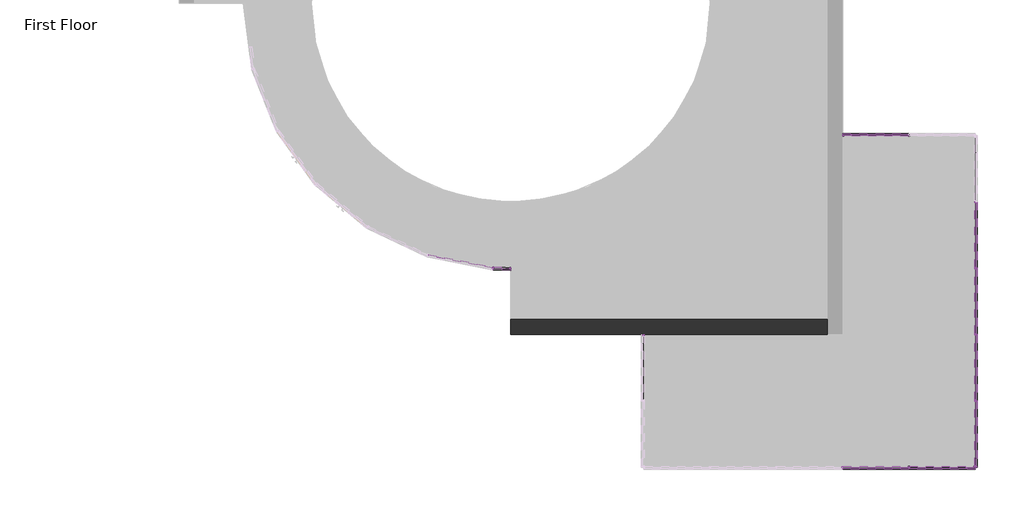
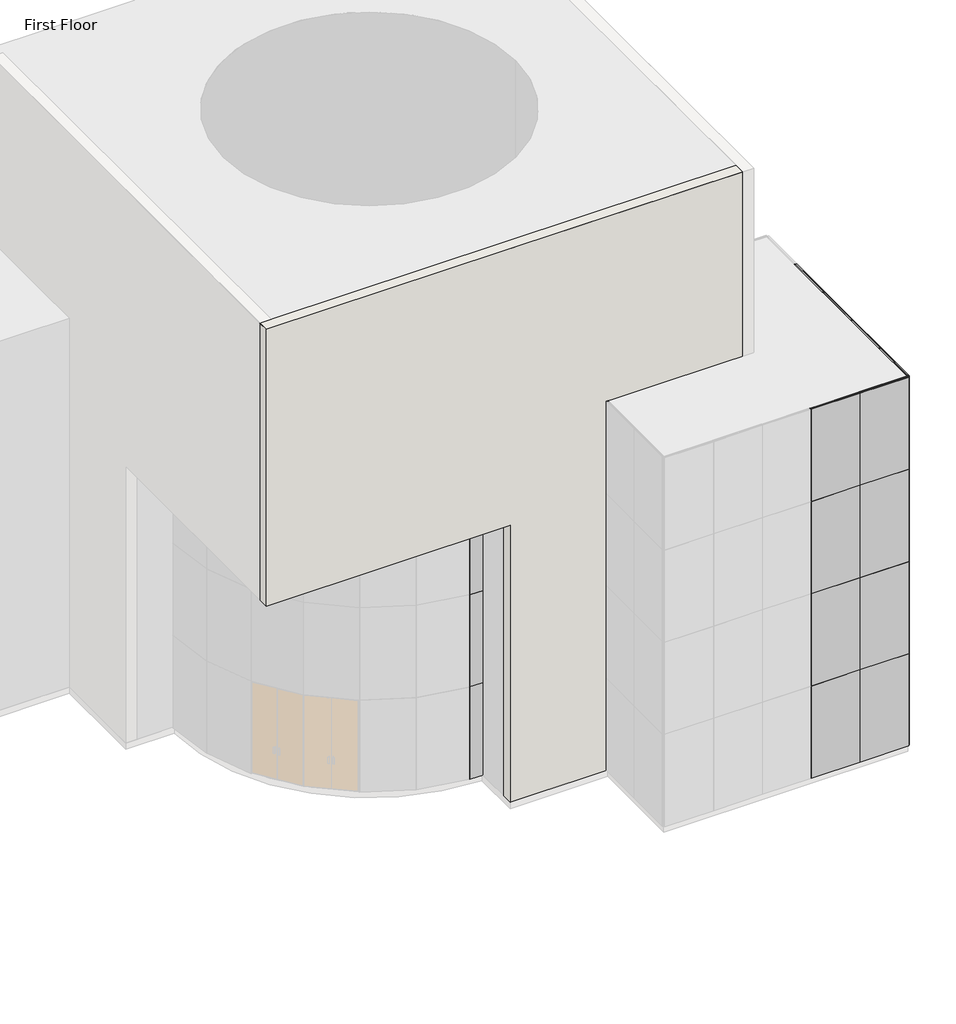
# One storey, part 2 of 4: 91 members, 31 plates, 1 wall.
"""IFC4 building model written with IfcOpenShell, lengths in millimetres."""

from ifc_helpers import new_model, si_unit, origin, place, context, project, spatial, faceted_brep, transform, mapped, element, save
from components import rectangular_mullion_30mm_square_353f8307, rectangular_mullion_30mm_square_7a78963c, rectangular_mullion_30mm_square_eb988697, rectangular_mullion_30mm_square_0160e4a9, rectangular_mullion_30mm_square_0f531e6e, rectangular_mullion_30mm_square_5a53314d, rectangular_mullion_30mm_square_6b9c2625, rectangular_mullion_30mm_square_fb254f26, rectangular_mullion_30mm_square_e6ba2f94, rectangular_mullion_30mm_square_80292d53, system_panel_glazed_8bf869fa, system_panel_glazed_f5855ad7

model = new_model("IFC4")

# Units and contexts
model_context = context("Model", 3, world=origin())
ifc_project = project(units=[si_unit("LENGTHUNIT", "METRE", prefix="MILLI")], contexts=[model_context])

# Site, building, storey
site = spatial("IfcSite", under=ifc_project)
building = spatial("IfcBuilding", under=site)
storey = spatial("IfcBuildingStorey", under=building, Name="First Floor", Elevation=0.0)

# Members
placement = place(None, origin())
rectangular_mullion_30mm_square_shape = rectangular_mullion_30mm_square_353f8307(model_context)
element("IfcMember", 1, ObjectType="Rectangular Mullion : 30mm Square", at=placement, inside=storey, context=model_context, shape_type="MappedRepresentation", body=[
    mapped(rectangular_mullion_30mm_square_shape, transform((11481.0350085, -10495.147342, 12192.0), x_axis=(0.0, 0.0, 1.0), y_axis=(0.0, -1.0, 0.0), z_axis=(1.0, 0.0, 0.0))),
])
element("IfcMember", 2, ObjectType="Rectangular Mullion : 30mm Square", at=placement, inside=storey, context=model_context, shape_type="MappedRepresentation", body=[
    mapped(rectangular_mullion_30mm_square_shape, transform((11511.0350085, -8986.147342, 12192.0), x_axis=(0.0, 0.0, 1.0), y_axis=(1.0, 0.0, 0.0), z_axis=(0.0, 1.0, 0.0))),
])
element("IfcMember", 3, ObjectType="Rectangular Mullion : 30mm Square", at=placement, inside=storey, context=model_context, shape_type="MappedRepresentation", body=[
    mapped(rectangular_mullion_30mm_square_shape, transform((8493.0350085, -2875.147342, 12192.0), x_axis=(0.0, 0.0, 1.0), y_axis=(0.0, 1.0, 0.0), z_axis=(-1.0, 0.0, 0.0))),
])
element("IfcMember", 4, ObjectType="Rectangular Mullion : 30mm Square", at=placement, inside=storey, context=model_context, shape_type="MappedRepresentation", body=[
    mapped(rectangular_mullion_30mm_square_shape, transform((3891.0350085, -7477.147342, 0.0), x_axis=(0.0, 0.0, -1.0), y_axis=(-1.0, 0.0, 0.0), z_axis=(0.0, 1.0, 0.0))),
])
element("IfcMember", 5, ObjectType="Rectangular Mullion : 30mm Square", at=placement, inside=storey, context=model_context, shape_type="MappedRepresentation", body=[
    mapped(rectangular_mullion_30mm_square_shape, transform((10002.0350085, -10495.147342, 0.0), x_axis=(0.0, 0.0, -1.0), y_axis=(0.0, -1.0, 0.0), z_axis=(-1.0, 0.0, 0.0))),
])
element("IfcMember", 6, ObjectType="Rectangular Mullion : 30mm Square", at=placement, inside=storey, context=model_context, shape_type="MappedRepresentation", body=[
    mapped(rectangular_mullion_30mm_square_shape, transform((11511.0350085, -10465.147342, 0.0), x_axis=(0.0, 0.0, -1.0), y_axis=(1.0, 0.0, 0.0), z_axis=(0.0, -1.0, 0.0))),
])
element("IfcMember", 7, ObjectType="Rectangular Mullion : 30mm Square", at=placement, inside=storey, context=model_context, shape_type="MappedRepresentation", body=[
    mapped(rectangular_mullion_30mm_square_shape, transform((11511.0350085, -4384.147342, 0.0), x_axis=(0.0, 0.0, -1.0), y_axis=(1.0, 0.0, 0.0), z_axis=(0.0, -1.0, 0.0))),
])
element("IfcMember", 8, ObjectType="Rectangular Mullion : 30mm Square", at=placement, inside=storey, context=model_context, shape_type="MappedRepresentation", body=[
    mapped(rectangular_mullion_30mm_square_shape, transform((9972.0350085, -2875.147342, 0.0), x_axis=(0.0, 0.0, -1.0), y_axis=(0.0, 1.0, 0.0), z_axis=(1.0, 0.0, 0.0))),
])
rectangular_mullion_30mm_square_2_shape = rectangular_mullion_30mm_square_7a78963c(model_context)
element("IfcMember", 9, ObjectType="Rectangular Mullion : 30mm Square", at=placement, inside=storey, context=model_context, shape_type="MappedRepresentation", body=[
    mapped(rectangular_mullion_30mm_square_2_shape, transform((435.7457338, -5909.5261075, 0.0), x_axis=(0.9977655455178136, -0.06681254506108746, 0.0), y_axis=(-0.06681254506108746, -0.9977655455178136, 0.0), z_axis=(0.0, 0.0, -1.0))),
])
element("IfcMember", 10, ObjectType="Rectangular Mullion : 30mm Square", at=placement, inside=storey, context=model_context, shape_type="MappedRepresentation", body=[
    mapped(rectangular_mullion_30mm_square_2_shape, transform((9987.0350085, -10495.147342, 0.0), x_axis=(1.0, 0.0, 0.0), y_axis=(0.0, -1.0, 0.0), z_axis=(0.0, 0.0, -1.0))),
])
element("IfcMember", 11, ObjectType="Rectangular Mullion : 30mm Square", at=placement, inside=storey, context=model_context, shape_type="MappedRepresentation", body=[
    mapped(rectangular_mullion_30mm_square_2_shape, transform((11511.0350085, -8971.147342, 0.0), x_axis=(0.0, 1.0, 0.0), y_axis=(1.0, 0.0, 0.0), z_axis=(0.0, 0.0, -1.0))),
])
element("IfcMember", 12, ObjectType="Rectangular Mullion : 30mm Square", at=placement, inside=storey, context=model_context, shape_type="MappedRepresentation", body=[
    mapped(rectangular_mullion_30mm_square_2_shape, transform((11511.0350085, -7447.147342, 0.0), x_axis=(0.0, 1.0, 0.0), y_axis=(1.0, 0.0, 0.0), z_axis=(0.0, 0.0, -1.0))),
])
element("IfcMember", 13, ObjectType="Rectangular Mullion : 30mm Square", at=placement, inside=storey, context=model_context, shape_type="MappedRepresentation", body=[
    mapped(rectangular_mullion_30mm_square_2_shape, transform((11511.0350085, -5923.147342, 0.0), x_axis=(0.0, 1.0, 0.0), y_axis=(1.0, 0.0, 0.0), z_axis=(0.0, 0.0, -1.0))),
])
element("IfcMember", 14, ObjectType="Rectangular Mullion : 30mm Square", at=placement, inside=storey, context=model_context, shape_type="MappedRepresentation", body=[
    mapped(rectangular_mullion_30mm_square_2_shape, transform((11511.0350085, -4399.147342, 0.0), x_axis=(0.0, 1.0, 0.0), y_axis=(1.0, 0.0, 0.0), z_axis=(0.0, 0.0, -1.0))),
])
element("IfcMember", 15, ObjectType="Rectangular Mullion : 30mm Square", at=placement, inside=storey, context=model_context, shape_type="MappedRepresentation", body=[
    mapped(rectangular_mullion_30mm_square_2_shape, transform((9987.0350085, -2875.147342, 0.0), x_axis=(-1.0, 0.0, 0.0), y_axis=(0.0, 1.0, 0.0), z_axis=(0.0, 0.0, -1.0))),
])
rectangular_mullion_30mm_square_3_shape = rectangular_mullion_30mm_square_eb988697(model_context)
element("IfcMember", 16, ObjectType="Rectangular Mullion : 30mm Square", at=placement, inside=storey, context=model_context, shape_type="MappedRepresentation", body=[
    mapped(rectangular_mullion_30mm_square_3_shape, transform((11481.0350085, -10495.147342, 3048.0), x_axis=(0.0, 0.0, 1.0), y_axis=(0.0, -1.0, 0.0), z_axis=(1.0, 0.0, 0.0))),
])
element("IfcMember", 17, ObjectType="Rectangular Mullion : 30mm Square", at=placement, inside=storey, context=model_context, shape_type="MappedRepresentation", body=[
    mapped(rectangular_mullion_30mm_square_3_shape, transform((11481.0350085, -10495.147342, 6096.0), x_axis=(0.0, 0.0, 1.0), y_axis=(0.0, -1.0, 0.0), z_axis=(1.0, 0.0, 0.0))),
])
element("IfcMember", 18, ObjectType="Rectangular Mullion : 30mm Square", at=placement, inside=storey, context=model_context, shape_type="MappedRepresentation", body=[
    mapped(rectangular_mullion_30mm_square_3_shape, transform((11481.0350085, -10495.147342, 9144.0), x_axis=(0.0, 0.0, 1.0), y_axis=(0.0, -1.0, 0.0), z_axis=(1.0, 0.0, 0.0))),
])
element("IfcMember", 19, ObjectType="Rectangular Mullion : 30mm Square", at=placement, inside=storey, context=model_context, shape_type="MappedRepresentation", body=[
    mapped(rectangular_mullion_30mm_square_3_shape, transform((11511.0350085, -8986.147342, 3048.0), x_axis=(0.0, 0.0, 1.0), y_axis=(1.0, 0.0, 0.0), z_axis=(0.0, 1.0, 0.0))),
])
element("IfcMember", 20, ObjectType="Rectangular Mullion : 30mm Square", at=placement, inside=storey, context=model_context, shape_type="MappedRepresentation", body=[
    mapped(rectangular_mullion_30mm_square_3_shape, transform((11511.0350085, -8986.147342, 6096.0), x_axis=(0.0, 0.0, 1.0), y_axis=(1.0, 0.0, 0.0), z_axis=(0.0, 1.0, 0.0))),
])
element("IfcMember", 21, ObjectType="Rectangular Mullion : 30mm Square", at=placement, inside=storey, context=model_context, shape_type="MappedRepresentation", body=[
    mapped(rectangular_mullion_30mm_square_3_shape, transform((11511.0350085, -8986.147342, 9144.0), x_axis=(0.0, 0.0, 1.0), y_axis=(1.0, 0.0, 0.0), z_axis=(0.0, 1.0, 0.0))),
])
element("IfcMember", 22, ObjectType="Rectangular Mullion : 30mm Square", at=placement, inside=storey, context=model_context, shape_type="MappedRepresentation", body=[
    mapped(rectangular_mullion_30mm_square_3_shape, transform((8493.0350085, -2875.147342, 3048.0), x_axis=(0.0, 0.0, 1.0), y_axis=(0.0, 1.0, 0.0), z_axis=(-1.0, 0.0, 0.0))),
])
element("IfcMember", 23, ObjectType="Rectangular Mullion : 30mm Square", at=placement, inside=storey, context=model_context, shape_type="MappedRepresentation", body=[
    mapped(rectangular_mullion_30mm_square_3_shape, transform((8493.0350085, -2875.147342, 6096.0), x_axis=(0.0, 0.0, 1.0), y_axis=(0.0, 1.0, 0.0), z_axis=(-1.0, 0.0, 0.0))),
])
element("IfcMember", 24, ObjectType="Rectangular Mullion : 30mm Square", at=placement, inside=storey, context=model_context, shape_type="MappedRepresentation", body=[
    mapped(rectangular_mullion_30mm_square_3_shape, transform((8493.0350085, -2875.147342, 9144.0), x_axis=(0.0, 0.0, 1.0), y_axis=(0.0, 1.0, 0.0), z_axis=(-1.0, 0.0, 0.0))),
])
rectangular_mullion_30mm_square_4_shape = rectangular_mullion_30mm_square_0160e4a9(model_context)
element("IfcMember", 25, ObjectType="Rectangular Mullion : 30mm Square", at=placement, inside=storey, context=model_context, shape_type="MappedRepresentation", body=[
    mapped(rectangular_mullion_30mm_square_4_shape, transform((9972.0350085, -10495.147342, 3048.0), x_axis=(0.0, 0.0, 1.0), y_axis=(0.0, -1.0, 0.0), z_axis=(1.0, 0.0, 0.0))),
])
element("IfcMember", 26, ObjectType="Rectangular Mullion : 30mm Square", at=placement, inside=storey, context=model_context, shape_type="MappedRepresentation", body=[
    mapped(rectangular_mullion_30mm_square_4_shape, transform((9972.0350085, -10495.147342, 6096.0), x_axis=(0.0, 0.0, 1.0), y_axis=(0.0, -1.0, 0.0), z_axis=(1.0, 0.0, 0.0))),
])
element("IfcMember", 27, ObjectType="Rectangular Mullion : 30mm Square", at=placement, inside=storey, context=model_context, shape_type="MappedRepresentation", body=[
    mapped(rectangular_mullion_30mm_square_4_shape, transform((9972.0350085, -10495.147342, 9144.0), x_axis=(0.0, 0.0, 1.0), y_axis=(0.0, -1.0, 0.0), z_axis=(1.0, 0.0, 0.0))),
])
element("IfcMember", 28, ObjectType="Rectangular Mullion : 30mm Square", at=placement, inside=storey, context=model_context, shape_type="MappedRepresentation", body=[
    mapped(rectangular_mullion_30mm_square_4_shape, transform((11511.0350085, -7462.147342, 3048.0), x_axis=(0.0, 0.0, 1.0), y_axis=(1.0, 0.0, 0.0), z_axis=(0.0, 1.0, 0.0))),
])
element("IfcMember", 29, ObjectType="Rectangular Mullion : 30mm Square", at=placement, inside=storey, context=model_context, shape_type="MappedRepresentation", body=[
    mapped(rectangular_mullion_30mm_square_4_shape, transform((11511.0350085, -5938.147342, 3048.0), x_axis=(0.0, 0.0, 1.0), y_axis=(1.0, 0.0, 0.0), z_axis=(0.0, 1.0, 0.0))),
])
element("IfcMember", 30, ObjectType="Rectangular Mullion : 30mm Square", at=placement, inside=storey, context=model_context, shape_type="MappedRepresentation", body=[
    mapped(rectangular_mullion_30mm_square_4_shape, transform((11511.0350085, -4414.147342, 3048.0), x_axis=(0.0, 0.0, 1.0), y_axis=(1.0, 0.0, 0.0), z_axis=(0.0, 1.0, 0.0))),
])
element("IfcMember", 31, ObjectType="Rectangular Mullion : 30mm Square", at=placement, inside=storey, context=model_context, shape_type="MappedRepresentation", body=[
    mapped(rectangular_mullion_30mm_square_4_shape, transform((11511.0350085, -7462.147342, 6096.0), x_axis=(0.0, 0.0, 1.0), y_axis=(1.0, 0.0, 0.0), z_axis=(0.0, 1.0, 0.0))),
])
element("IfcMember", 32, ObjectType="Rectangular Mullion : 30mm Square", at=placement, inside=storey, context=model_context, shape_type="MappedRepresentation", body=[
    mapped(rectangular_mullion_30mm_square_4_shape, transform((11511.0350085, -5938.147342, 6096.0), x_axis=(0.0, 0.0, 1.0), y_axis=(1.0, 0.0, 0.0), z_axis=(0.0, 1.0, 0.0))),
])
element("IfcMember", 33, ObjectType="Rectangular Mullion : 30mm Square", at=placement, inside=storey, context=model_context, shape_type="MappedRepresentation", body=[
    mapped(rectangular_mullion_30mm_square_4_shape, transform((11511.0350085, -4414.147342, 6096.0), x_axis=(0.0, 0.0, 1.0), y_axis=(1.0, 0.0, 0.0), z_axis=(0.0, 1.0, 0.0))),
])
element("IfcMember", 34, ObjectType="Rectangular Mullion : 30mm Square", at=placement, inside=storey, context=model_context, shape_type="MappedRepresentation", body=[
    mapped(rectangular_mullion_30mm_square_4_shape, transform((11511.0350085, -7462.147342, 9144.0), x_axis=(0.0, 0.0, 1.0), y_axis=(1.0, 0.0, 0.0), z_axis=(0.0, 1.0, 0.0))),
])
element("IfcMember", 35, ObjectType="Rectangular Mullion : 30mm Square", at=placement, inside=storey, context=model_context, shape_type="MappedRepresentation", body=[
    mapped(rectangular_mullion_30mm_square_4_shape, transform((11511.0350085, -5938.147342, 9144.0), x_axis=(0.0, 0.0, 1.0), y_axis=(1.0, 0.0, 0.0), z_axis=(0.0, 1.0, 0.0))),
])
element("IfcMember", 36, ObjectType="Rectangular Mullion : 30mm Square", at=placement, inside=storey, context=model_context, shape_type="MappedRepresentation", body=[
    mapped(rectangular_mullion_30mm_square_4_shape, transform((11511.0350085, -4414.147342, 9144.0), x_axis=(0.0, 0.0, 1.0), y_axis=(1.0, 0.0, 0.0), z_axis=(0.0, 1.0, 0.0))),
])
rectangular_mullion_30mm_square_5_shape = rectangular_mullion_30mm_square_0f531e6e(model_context)
element("IfcMember", 37, ObjectType="Rectangular Mullion : 30mm Square", at=placement, inside=storey, context=model_context, shape_type="MappedRepresentation", body=[
    mapped(rectangular_mullion_30mm_square_5_shape, transform((11511.0350085, -8956.147342, 0.0), x_axis=(0.0, 0.0, -1.0), y_axis=(1.0, 0.0, 0.0), z_axis=(0.0, -1.0, 0.0))),
])
element("IfcMember", 38, ObjectType="Rectangular Mullion : 30mm Square", at=placement, inside=storey, context=model_context, shape_type="MappedRepresentation", body=[
    mapped(rectangular_mullion_30mm_square_5_shape, transform((11511.0350085, -7432.147342, 0.0), x_axis=(0.0, 0.0, -1.0), y_axis=(1.0, 0.0, 0.0), z_axis=(0.0, -1.0, 0.0))),
])
element("IfcMember", 39, ObjectType="Rectangular Mullion : 30mm Square", at=placement, inside=storey, context=model_context, shape_type="MappedRepresentation", body=[
    mapped(rectangular_mullion_30mm_square_5_shape, transform((11511.0350085, -5908.147342, 0.0), x_axis=(0.0, 0.0, -1.0), y_axis=(1.0, 0.0, 0.0), z_axis=(0.0, -1.0, 0.0))),
])
element("IfcMember", 40, ObjectType="Rectangular Mullion : 30mm Square", at=placement, inside=storey, context=model_context, shape_type="MappedRepresentation", body=[
    mapped(rectangular_mullion_30mm_square_5_shape, transform((9972.0350085, -10495.147342, 12192.0), x_axis=(0.0, 0.0, 1.0), y_axis=(0.0, -1.0, 0.0), z_axis=(1.0, 0.0, 0.0))),
])
element("IfcMember", 41, ObjectType="Rectangular Mullion : 30mm Square", at=placement, inside=storey, context=model_context, shape_type="MappedRepresentation", body=[
    mapped(rectangular_mullion_30mm_square_5_shape, transform((11511.0350085, -7462.147342, 12192.0), x_axis=(0.0, 0.0, 1.0), y_axis=(1.0, 0.0, 0.0), z_axis=(0.0, 1.0, 0.0))),
])
element("IfcMember", 42, ObjectType="Rectangular Mullion : 30mm Square", at=placement, inside=storey, context=model_context, shape_type="MappedRepresentation", body=[
    mapped(rectangular_mullion_30mm_square_5_shape, transform((11511.0350085, -5938.147342, 12192.0), x_axis=(0.0, 0.0, 1.0), y_axis=(1.0, 0.0, 0.0), z_axis=(0.0, 1.0, 0.0))),
])
element("IfcMember", 43, ObjectType="Rectangular Mullion : 30mm Square", at=placement, inside=storey, context=model_context, shape_type="MappedRepresentation", body=[
    mapped(rectangular_mullion_30mm_square_5_shape, transform((11511.0350085, -4414.147342, 12192.0), x_axis=(0.0, 0.0, 1.0), y_axis=(1.0, 0.0, 0.0), z_axis=(0.0, 1.0, 0.0))),
])
element("IfcMember", 44, ObjectType="Rectangular Mullion : 30mm Square", at=placement, inside=storey, context=model_context, shape_type="MappedRepresentation", body=[
    mapped(rectangular_mullion_30mm_square_2_shape, transform((435.7457338, -5909.5261075, 3048.0), x_axis=(0.9977655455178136, -0.06681254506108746, 0.0), y_axis=(-0.06681254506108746, -0.9977655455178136, 0.0), z_axis=(0.0, 0.0, -1.0))),
])
element("IfcMember", 45, ObjectType="Rectangular Mullion : 30mm Square", at=placement, inside=storey, context=model_context, shape_type="MappedRepresentation", body=[
    mapped(rectangular_mullion_30mm_square_2_shape, transform((8463.0350085, -10495.147342, 6096.0), x_axis=(1.0, 0.0, 0.0), y_axis=(0.0, -1.0, 0.0), z_axis=(0.0, 0.0, -1.0))),
])
element("IfcMember", 46, ObjectType="Rectangular Mullion : 30mm Square", at=placement, inside=storey, context=model_context, shape_type="MappedRepresentation", body=[
    mapped(rectangular_mullion_30mm_square_2_shape, transform((9987.0350085, -10495.147342, 3048.0), x_axis=(1.0, 0.0, 0.0), y_axis=(0.0, -1.0, 0.0), z_axis=(0.0, 0.0, -1.0))),
])
element("IfcMember", 47, ObjectType="Rectangular Mullion : 30mm Square", at=placement, inside=storey, context=model_context, shape_type="MappedRepresentation", body=[
    mapped(rectangular_mullion_30mm_square_2_shape, transform((9987.0350085, -10495.147342, 6096.0), x_axis=(1.0, 0.0, 0.0), y_axis=(0.0, -1.0, 0.0), z_axis=(0.0, 0.0, -1.0))),
])
element("IfcMember", 48, ObjectType="Rectangular Mullion : 30mm Square", at=placement, inside=storey, context=model_context, shape_type="MappedRepresentation", body=[
    mapped(rectangular_mullion_30mm_square_2_shape, transform((11511.0350085, -8971.147342, 3048.0), x_axis=(0.0, 1.0, 0.0), y_axis=(1.0, 0.0, 0.0), z_axis=(0.0, 0.0, -1.0))),
])
element("IfcMember", 49, ObjectType="Rectangular Mullion : 30mm Square", at=placement, inside=storey, context=model_context, shape_type="MappedRepresentation", body=[
    mapped(rectangular_mullion_30mm_square_2_shape, transform((11511.0350085, -8971.147342, 6096.0), x_axis=(0.0, 1.0, 0.0), y_axis=(1.0, 0.0, 0.0), z_axis=(0.0, 0.0, -1.0))),
])
element("IfcMember", 50, ObjectType="Rectangular Mullion : 30mm Square", at=placement, inside=storey, context=model_context, shape_type="MappedRepresentation", body=[
    mapped(rectangular_mullion_30mm_square_2_shape, transform((11511.0350085, -7447.147342, 3048.0), x_axis=(0.0, 1.0, 0.0), y_axis=(1.0, 0.0, 0.0), z_axis=(0.0, 0.0, -1.0))),
])
element("IfcMember", 51, ObjectType="Rectangular Mullion : 30mm Square", at=placement, inside=storey, context=model_context, shape_type="MappedRepresentation", body=[
    mapped(rectangular_mullion_30mm_square_2_shape, transform((11511.0350085, -7447.147342, 6096.0), x_axis=(0.0, 1.0, 0.0), y_axis=(1.0, 0.0, 0.0), z_axis=(0.0, 0.0, -1.0))),
])
element("IfcMember", 52, ObjectType="Rectangular Mullion : 30mm Square", at=placement, inside=storey, context=model_context, shape_type="MappedRepresentation", body=[
    mapped(rectangular_mullion_30mm_square_2_shape, transform((11511.0350085, -5923.147342, 3048.0), x_axis=(0.0, 1.0, 0.0), y_axis=(1.0, 0.0, 0.0), z_axis=(0.0, 0.0, -1.0))),
])
element("IfcMember", 53, ObjectType="Rectangular Mullion : 30mm Square", at=placement, inside=storey, context=model_context, shape_type="MappedRepresentation", body=[
    mapped(rectangular_mullion_30mm_square_2_shape, transform((11511.0350085, -5923.147342, 6096.0), x_axis=(0.0, 1.0, 0.0), y_axis=(1.0, 0.0, 0.0), z_axis=(0.0, 0.0, -1.0))),
])
element("IfcMember", 54, ObjectType="Rectangular Mullion : 30mm Square", at=placement, inside=storey, context=model_context, shape_type="MappedRepresentation", body=[
    mapped(rectangular_mullion_30mm_square_2_shape, transform((11511.0350085, -4399.147342, 3048.0), x_axis=(0.0, 1.0, 0.0), y_axis=(1.0, 0.0, 0.0), z_axis=(0.0, 0.0, -1.0))),
])
element("IfcMember", 55, ObjectType="Rectangular Mullion : 30mm Square", at=placement, inside=storey, context=model_context, shape_type="MappedRepresentation", body=[
    mapped(rectangular_mullion_30mm_square_2_shape, transform((11511.0350085, -4399.147342, 6096.0), x_axis=(0.0, 1.0, 0.0), y_axis=(1.0, 0.0, 0.0), z_axis=(0.0, 0.0, -1.0))),
])
element("IfcMember", 56, ObjectType="Rectangular Mullion : 30mm Square", at=placement, inside=storey, context=model_context, shape_type="MappedRepresentation", body=[
    mapped(rectangular_mullion_30mm_square_2_shape, transform((9987.0350085, -2875.147342, 3048.0), x_axis=(-1.0, 0.0, 0.0), y_axis=(0.0, 1.0, 0.0), z_axis=(0.0, 0.0, -1.0))),
])
element("IfcMember", 57, ObjectType="Rectangular Mullion : 30mm Square", at=placement, inside=storey, context=model_context, shape_type="MappedRepresentation", body=[
    mapped(rectangular_mullion_30mm_square_2_shape, transform((9987.0350085, -2875.147342, 6096.0), x_axis=(-1.0, 0.0, 0.0), y_axis=(0.0, 1.0, 0.0), z_axis=(0.0, 0.0, -1.0))),
])
element("IfcMember", 58, ObjectType="Rectangular Mullion : 30mm Square", at=placement, inside=storey, context=model_context, shape_type="MappedRepresentation", body=[
    mapped(rectangular_mullion_30mm_square_2_shape, transform((435.7457338, -5909.5261075, 6096.0), x_axis=(0.9977655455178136, -0.06681254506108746, 0.0), y_axis=(-0.06681254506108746, -0.9977655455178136, 0.0), z_axis=(0.0, 0.0, -1.0))),
])
element("IfcMember", 59, ObjectType="Rectangular Mullion : 30mm Square", at=placement, inside=storey, context=model_context, shape_type="MappedRepresentation", body=[
    mapped(rectangular_mullion_30mm_square_2_shape, transform((8463.0350085, -10495.147342, 9144.0), x_axis=(1.0, 0.0, 0.0), y_axis=(0.0, -1.0, 0.0), z_axis=(0.0, 0.0, -1.0))),
])
element("IfcMember", 60, ObjectType="Rectangular Mullion : 30mm Square", at=placement, inside=storey, context=model_context, shape_type="MappedRepresentation", body=[
    mapped(rectangular_mullion_30mm_square_2_shape, transform((9987.0350085, -10495.147342, 9144.0), x_axis=(1.0, 0.0, 0.0), y_axis=(0.0, -1.0, 0.0), z_axis=(0.0, 0.0, -1.0))),
])
element("IfcMember", 61, ObjectType="Rectangular Mullion : 30mm Square", at=placement, inside=storey, context=model_context, shape_type="MappedRepresentation", body=[
    mapped(rectangular_mullion_30mm_square_2_shape, transform((11511.0350085, -8971.147342, 9144.0), x_axis=(0.0, 1.0, 0.0), y_axis=(1.0, 0.0, 0.0), z_axis=(0.0, 0.0, -1.0))),
])
element("IfcMember", 62, ObjectType="Rectangular Mullion : 30mm Square", at=placement, inside=storey, context=model_context, shape_type="MappedRepresentation", body=[
    mapped(rectangular_mullion_30mm_square_2_shape, transform((11511.0350085, -7447.147342, 9144.0), x_axis=(0.0, 1.0, 0.0), y_axis=(1.0, 0.0, 0.0), z_axis=(0.0, 0.0, -1.0))),
])
element("IfcMember", 63, ObjectType="Rectangular Mullion : 30mm Square", at=placement, inside=storey, context=model_context, shape_type="MappedRepresentation", body=[
    mapped(rectangular_mullion_30mm_square_2_shape, transform((11511.0350085, -5923.147342, 9144.0), x_axis=(0.0, 1.0, 0.0), y_axis=(1.0, 0.0, 0.0), z_axis=(0.0, 0.0, -1.0))),
])
element("IfcMember", 64, ObjectType="Rectangular Mullion : 30mm Square", at=placement, inside=storey, context=model_context, shape_type="MappedRepresentation", body=[
    mapped(rectangular_mullion_30mm_square_2_shape, transform((11511.0350085, -4399.147342, 9144.0), x_axis=(0.0, 1.0, 0.0), y_axis=(1.0, 0.0, 0.0), z_axis=(0.0, 0.0, -1.0))),
])
element("IfcMember", 65, ObjectType="Rectangular Mullion : 30mm Square", at=placement, inside=storey, context=model_context, shape_type="MappedRepresentation", body=[
    mapped(rectangular_mullion_30mm_square_2_shape, transform((9987.0350085, -2875.147342, 9144.0), x_axis=(-1.0, 0.0, 0.0), y_axis=(0.0, 1.0, 0.0), z_axis=(0.0, 0.0, -1.0))),
])
rectangular_mullion_30mm_square_6_shape = rectangular_mullion_30mm_square_5a53314d(model_context)
element("IfcMember", 66, ObjectType="Rectangular Mullion : 30mm Square", at=placement, inside=storey, context=model_context, shape_type="MappedRepresentation", body=[
    mapped(rectangular_mullion_30mm_square_6_shape, transform((3891.0350085, -7447.147342, 12192.0), x_axis=(0.0, 1.0, 0.0), y_axis=(-1.0, 0.0, 0.0), z_axis=(0.0, 0.0, 1.0))),
])
element("IfcMember", 67, ObjectType="Rectangular Mullion : 30mm Square", at=placement, inside=storey, context=model_context, shape_type="MappedRepresentation", body=[
    mapped(rectangular_mullion_30mm_square_6_shape, transform((11511.0350085, -10495.147342, 12192.0), x_axis=(0.0, -1.0, 0.0), y_axis=(1.0, 0.0, 0.0), z_axis=(0.0, 0.0, 1.0))),
])
element("IfcMember", 68, ObjectType="Rectangular Mullion : 30mm Square", at=placement, inside=storey, context=model_context, shape_type="MappedRepresentation", body=[
    mapped(rectangular_mullion_30mm_square_6_shape, transform((843.0350085, -5923.147342, 0.0), x_axis=(0.9994412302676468, -0.03342494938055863, 0.0), y_axis=(-0.03342494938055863, -0.9994412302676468, 0.0), z_axis=(0.0, 0.0, -1.0))),
])
element("IfcMember", 69, ObjectType="Rectangular Mullion : 30mm Square", at=placement, inside=storey, context=model_context, shape_type="MappedRepresentation", body=[
    mapped(rectangular_mullion_30mm_square_6_shape, transform((11511.0350085, -10495.147342, 0.0), x_axis=(1.0, 0.0, 0.0), y_axis=(0.0, -1.0, 0.0), z_axis=(0.0, 0.0, -1.0))),
])
element("IfcMember", 70, ObjectType="Rectangular Mullion : 30mm Square", at=placement, inside=storey, context=model_context, shape_type="MappedRepresentation", body=[
    mapped(rectangular_mullion_30mm_square_6_shape, transform((8463.0350085, -2875.147342, 0.0), x_axis=(-1.0, 0.0, 0.0), y_axis=(0.0, 1.0, 0.0), z_axis=(0.0, 0.0, -1.0))),
])
element("IfcMember", 71, ObjectType="Rectangular Mullion : 30mm Square", at=placement, inside=storey, context=model_context, shape_type="MappedRepresentation", body=[
    mapped(rectangular_mullion_30mm_square_6_shape, transform((843.0350085, -5923.147342, 3048.0), x_axis=(0.9994412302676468, -0.033424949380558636, 0.0), y_axis=(-0.033424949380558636, -0.9994412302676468, 0.0), z_axis=(0.0, 0.0, -1.0))),
])
element("IfcMember", 72, ObjectType="Rectangular Mullion : 30mm Square", at=placement, inside=storey, context=model_context, shape_type="MappedRepresentation", body=[
    mapped(rectangular_mullion_30mm_square_6_shape, transform((11511.0350085, -10495.147342, 3048.0), x_axis=(1.0, 0.0, 0.0), y_axis=(0.0, -1.0, 0.0), z_axis=(0.0, 0.0, -1.0))),
])
element("IfcMember", 73, ObjectType="Rectangular Mullion : 30mm Square", at=placement, inside=storey, context=model_context, shape_type="MappedRepresentation", body=[
    mapped(rectangular_mullion_30mm_square_6_shape, transform((11511.0350085, -10495.147342, 6096.0), x_axis=(1.0, 0.0, 0.0), y_axis=(0.0, -1.0, 0.0), z_axis=(0.0, 0.0, -1.0))),
])
element("IfcMember", 74, ObjectType="Rectangular Mullion : 30mm Square", at=placement, inside=storey, context=model_context, shape_type="MappedRepresentation", body=[
    mapped(rectangular_mullion_30mm_square_6_shape, transform((8463.0350085, -2875.147342, 3048.0), x_axis=(-1.0, 0.0, 0.0), y_axis=(0.0, 1.0, 0.0), z_axis=(0.0, 0.0, -1.0))),
])
element("IfcMember", 75, ObjectType="Rectangular Mullion : 30mm Square", at=placement, inside=storey, context=model_context, shape_type="MappedRepresentation", body=[
    mapped(rectangular_mullion_30mm_square_6_shape, transform((8463.0350085, -2875.147342, 6096.0), x_axis=(-1.0, 0.0, 0.0), y_axis=(0.0, 1.0, 0.0), z_axis=(0.0, 0.0, -1.0))),
])
element("IfcMember", 76, ObjectType="Rectangular Mullion : 30mm Square", at=placement, inside=storey, context=model_context, shape_type="MappedRepresentation", body=[
    mapped(rectangular_mullion_30mm_square_6_shape, transform((843.0350085, -5923.147342, 6096.0), x_axis=(0.9994412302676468, -0.033424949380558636, 0.0), y_axis=(-0.033424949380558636, -0.9994412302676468, 0.0), z_axis=(0.0, 0.0, -1.0))),
])
element("IfcMember", 77, ObjectType="Rectangular Mullion : 30mm Square", at=placement, inside=storey, context=model_context, shape_type="MappedRepresentation", body=[
    mapped(rectangular_mullion_30mm_square_6_shape, transform((11511.0350085, -10495.147342, 9144.0), x_axis=(1.0, 0.0, 0.0), y_axis=(0.0, -1.0, 0.0), z_axis=(0.0, 0.0, -1.0))),
])
element("IfcMember", 78, ObjectType="Rectangular Mullion : 30mm Square", at=placement, inside=storey, context=model_context, shape_type="MappedRepresentation", body=[
    mapped(rectangular_mullion_30mm_square_6_shape, transform((8463.0350085, -2875.147342, 9144.0), x_axis=(-1.0, 0.0, 0.0), y_axis=(0.0, 1.0, 0.0), z_axis=(0.0, 0.0, -1.0))),
])
element("IfcMember", 79, ObjectType="Rectangular Mullion : 30mm Square", at=placement, inside=storey, context=model_context, shape_type="MappedRepresentation", body=[
    mapped(rectangular_mullion_30mm_square_6_shape, transform((3891.0350085, -7447.147342, 3048.0), x_axis=(0.0, 1.0, 0.0), y_axis=(-1.0, 0.0, 0.0), z_axis=(0.0, 0.0, 1.0))),
])
element("IfcMember", 80, ObjectType="Rectangular Mullion : 30mm Square", at=placement, inside=storey, context=model_context, shape_type="MappedRepresentation", body=[
    mapped(rectangular_mullion_30mm_square_6_shape, transform((11511.0350085, -10495.147342, 3048.0), x_axis=(0.0, -1.0, 0.0), y_axis=(1.0, 0.0, 0.0), z_axis=(0.0, 0.0, 1.0))),
])
element("IfcMember", 81, ObjectType="Rectangular Mullion : 30mm Square", at=placement, inside=storey, context=model_context, shape_type="MappedRepresentation", body=[
    mapped(rectangular_mullion_30mm_square_6_shape, transform((3891.0350085, -7447.147342, 6096.0), x_axis=(0.0, 1.0, 0.0), y_axis=(-1.0, 0.0, 0.0), z_axis=(0.0, 0.0, 1.0))),
])
element("IfcMember", 82, ObjectType="Rectangular Mullion : 30mm Square", at=placement, inside=storey, context=model_context, shape_type="MappedRepresentation", body=[
    mapped(rectangular_mullion_30mm_square_6_shape, transform((3891.0350085, -7447.147342, 9144.0), x_axis=(0.0, 1.0, 0.0), y_axis=(-1.0, 0.0, 0.0), z_axis=(0.0, 0.0, 1.0))),
])
element("IfcMember", 83, ObjectType="Rectangular Mullion : 30mm Square", at=placement, inside=storey, context=model_context, shape_type="MappedRepresentation", body=[
    mapped(rectangular_mullion_30mm_square_6_shape, transform((11511.0350085, -10495.147342, 6096.0), x_axis=(0.0, -1.0, 0.0), y_axis=(1.0, 0.0, 0.0), z_axis=(0.0, 0.0, 1.0))),
])
element("IfcMember", 84, ObjectType="Rectangular Mullion : 30mm Square", at=placement, inside=storey, context=model_context, shape_type="MappedRepresentation", body=[
    mapped(rectangular_mullion_30mm_square_6_shape, transform((11511.0350085, -10495.147342, 9144.0), x_axis=(0.0, -1.0, 0.0), y_axis=(1.0, 0.0, 0.0), z_axis=(0.0, 0.0, 1.0))),
])
rectangular_mullion_30mm_square_7_shape = rectangular_mullion_30mm_square_6b9c2625(model_context)
element("IfcMember", 85, ObjectType="Rectangular Mullion : 30mm Square", at=placement, inside=storey, context=model_context, shape_type="MappedRepresentation", body=[
    mapped(rectangular_mullion_30mm_square_7_shape, transform((813.0517716, -5922.1445935, 9144.0), x_axis=(0.0, 0.0, 1.0), y_axis=(-0.033424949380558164, -0.9994412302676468, 0.0), z_axis=(0.9994412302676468, -0.033424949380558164, 0.0))),
])
rectangular_mullion_30mm_square_8_shape = rectangular_mullion_30mm_square_fb254f26(model_context)
element("IfcMember", 86, ObjectType="Rectangular Mullion : 30mm Square", at=placement, inside=storey, context=model_context, shape_type="MappedRepresentation", body=[
    mapped(rectangular_mullion_30mm_square_8_shape, transform((421.0219101, -5906.6609693, 3048.0), x_axis=(0.0, 0.0, 1.0), y_axis=(-0.19100921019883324, -0.9815882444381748, 0.0), z_axis=(0.9815882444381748, -0.19100921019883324, 0.0))),
])
element("IfcMember", 87, ObjectType="Rectangular Mullion : 30mm Square", at=placement, inside=storey, context=model_context, shape_type="MappedRepresentation", body=[
    mapped(rectangular_mullion_30mm_square_8_shape, transform((421.0219101, -5906.6609693, 6096.0), x_axis=(0.0, 0.0, 1.0), y_axis=(-0.19100921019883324, -0.9815882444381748, 0.0), z_axis=(0.9815882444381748, -0.19100921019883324, 0.0))),
])
rectangular_mullion_30mm_square_9_shape = rectangular_mullion_30mm_square_e6ba2f94(model_context)
element("IfcMember", 88, ObjectType="Rectangular Mullion : 30mm Square", at=placement, inside=storey, context=model_context, shape_type="MappedRepresentation", body=[
    mapped(rectangular_mullion_30mm_square_9_shape, transform((813.0517716, -5922.1445935, 3048.0), x_axis=(0.0, 0.0, 1.0), y_axis=(-0.033424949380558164, -0.9994412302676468, 0.0), z_axis=(0.9994412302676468, -0.033424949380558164, 0.0))),
])
element("IfcMember", 89, ObjectType="Rectangular Mullion : 30mm Square", at=placement, inside=storey, context=model_context, shape_type="MappedRepresentation", body=[
    mapped(rectangular_mullion_30mm_square_9_shape, transform((813.0517716, -5922.1445935, 6096.0), x_axis=(0.0, 0.0, 1.0), y_axis=(-0.03342494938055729, -0.9994412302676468, 0.0), z_axis=(0.9994412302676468, -0.03342494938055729, 0.0))),
])
element("IfcMember", 90, ObjectType="Rectangular Mullion : 30mm Square", at=placement, inside=storey, context=model_context, shape_type="MappedRepresentation", body=[
    mapped(rectangular_mullion_30mm_square_7_shape, transform((450.7373523, -5910.0274817, 0.0), x_axis=(0.0, 0.0, -1.0), y_axis=(-0.033424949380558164, -0.9994412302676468, 0.0), z_axis=(-0.9994412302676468, 0.033424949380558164, 0.0))),
])
rectangular_mullion_30mm_square_10_shape = rectangular_mullion_30mm_square_80292d53(model_context)
element("IfcMember", 91, ObjectType="Rectangular Mullion : 30mm Square", at=placement, inside=storey, context=model_context, shape_type="MappedRepresentation", body=[
    mapped(rectangular_mullion_30mm_square_10_shape, transform((421.0219101, -5906.6609693, 9144.0), x_axis=(0.0, 0.0, 1.0), y_axis=(-0.19100921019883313, -0.9815882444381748, 0.0), z_axis=(0.9815882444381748, -0.19100921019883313, 0.0))),
])

# Plates
system_panel_glazed_shape = system_panel_glazed_8bf869fa(model_context)
element("IfcPlate", 92, ObjectType="System Panel : Glazed", at=placement, inside=storey, context=model_context, shape_type="MappedRepresentation", body=[
    mapped(system_panel_glazed_shape, transform((9225.0350085, -10495.147342, 0.0), x_axis=(1.0, 0.0, 0.0), y_axis=(0.0, 1.0, 0.0), z_axis=(0.0, 0.0, 1.0))),
])
element("IfcPlate", 93, ObjectType="System Panel : Glazed", at=placement, inside=storey, context=model_context, shape_type="MappedRepresentation", body=[
    mapped(system_panel_glazed_shape, transform((10749.0350085, -10495.147342, 0.0), x_axis=(1.0, 0.0, 0.0), y_axis=(0.0, 1.0, 0.0), z_axis=(0.0, 0.0, 1.0))),
])
element("IfcPlate", 94, ObjectType="System Panel : Glazed", at=placement, inside=storey, context=model_context, shape_type="MappedRepresentation", body=[
    mapped(system_panel_glazed_shape, transform((9225.0350085, -10495.147342, 3048.0), x_axis=(1.0, 0.0, 0.0), y_axis=(0.0, 1.0, 0.0), z_axis=(0.0, 0.0, 1.0))),
])
element("IfcPlate", 95, ObjectType="System Panel : Glazed", at=placement, inside=storey, context=model_context, shape_type="MappedRepresentation", body=[
    mapped(system_panel_glazed_shape, transform((10749.0350085, -10495.147342, 3048.0), x_axis=(1.0, 0.0, 0.0), y_axis=(0.0, 1.0, 0.0), z_axis=(0.0, 0.0, 1.0))),
])
element("IfcPlate", 96, ObjectType="System Panel : Glazed", at=placement, inside=storey, context=model_context, shape_type="MappedRepresentation", body=[
    mapped(system_panel_glazed_shape, transform((9225.0350085, -10495.147342, 6096.0), x_axis=(1.0, 0.0, 0.0), y_axis=(0.0, 1.0, 0.0), z_axis=(0.0, 0.0, 1.0))),
])
element("IfcPlate", 97, ObjectType="System Panel : Glazed", at=placement, inside=storey, context=model_context, shape_type="MappedRepresentation", body=[
    mapped(system_panel_glazed_shape, transform((10749.0350085, -10495.147342, 6096.0), x_axis=(1.0, 0.0, 0.0), y_axis=(0.0, 1.0, 0.0), z_axis=(0.0, 0.0, 1.0))),
])
element("IfcPlate", 98, ObjectType="System Panel : Glazed", at=placement, inside=storey, context=model_context, shape_type="MappedRepresentation", body=[
    mapped(system_panel_glazed_shape, transform((9225.0350085, -10495.147342, 9144.0), x_axis=(1.0, 0.0, 0.0), y_axis=(0.0, 1.0, 0.0), z_axis=(0.0, 0.0, 1.0))),
])
element("IfcPlate", 99, ObjectType="System Panel : Glazed", at=placement, inside=storey, context=model_context, shape_type="MappedRepresentation", body=[
    mapped(system_panel_glazed_shape, transform((10749.0350085, -10495.147342, 9144.0), x_axis=(1.0, 0.0, 0.0), y_axis=(0.0, 1.0, 0.0), z_axis=(0.0, 0.0, 1.0))),
])
element("IfcPlate", 100, ObjectType="System Panel : Glazed", at=placement, inside=storey, context=model_context, shape_type="MappedRepresentation", body=[
    mapped(system_panel_glazed_shape, transform((11511.0350085, -9733.147342, 0.0), x_axis=(0.0, 1.0, 0.0), y_axis=(-1.0, 0.0, 0.0), z_axis=(0.0, 0.0, 1.0))),
])
element("IfcPlate", 101, ObjectType="System Panel : Glazed", at=placement, inside=storey, context=model_context, shape_type="MappedRepresentation", body=[
    mapped(system_panel_glazed_shape, transform((11511.0350085, -8209.147342, 0.0), x_axis=(0.0, 1.0, 0.0), y_axis=(-1.0, 0.0, 0.0), z_axis=(0.0, 0.0, 1.0))),
])
element("IfcPlate", 102, ObjectType="System Panel : Glazed", at=placement, inside=storey, context=model_context, shape_type="MappedRepresentation", body=[
    mapped(system_panel_glazed_shape, transform((11511.0350085, -6685.147342, 0.0), x_axis=(0.0, 1.0, 0.0), y_axis=(-1.0, 0.0, 0.0), z_axis=(0.0, 0.0, 1.0))),
])
element("IfcPlate", 103, ObjectType="System Panel : Glazed", at=placement, inside=storey, context=model_context, shape_type="MappedRepresentation", body=[
    mapped(system_panel_glazed_shape, transform((11511.0350085, -5161.147342, 0.0), x_axis=(0.0, 1.0, 0.0), y_axis=(-1.0, 0.0, 0.0), z_axis=(0.0, 0.0, 1.0))),
])
element("IfcPlate", 104, ObjectType="System Panel : Glazed", at=placement, inside=storey, context=model_context, shape_type="MappedRepresentation", body=[
    mapped(system_panel_glazed_shape, transform((11511.0350085, -9733.147342, 3048.0), x_axis=(0.0, 1.0, 0.0), y_axis=(-1.0, 0.0, 0.0), z_axis=(0.0, 0.0, 1.0))),
])
element("IfcPlate", 105, ObjectType="System Panel : Glazed", at=placement, inside=storey, context=model_context, shape_type="MappedRepresentation", body=[
    mapped(system_panel_glazed_shape, transform((11511.0350085, -8209.147342, 3048.0), x_axis=(0.0, 1.0, 0.0), y_axis=(-1.0, 0.0, 0.0), z_axis=(0.0, 0.0, 1.0))),
])
element("IfcPlate", 106, ObjectType="System Panel : Glazed", at=placement, inside=storey, context=model_context, shape_type="MappedRepresentation", body=[
    mapped(system_panel_glazed_shape, transform((11511.0350085, -6685.147342, 3048.0), x_axis=(0.0, 1.0, 0.0), y_axis=(-1.0, 0.0, 0.0), z_axis=(0.0, 0.0, 1.0))),
])
element("IfcPlate", 107, ObjectType="System Panel : Glazed", at=placement, inside=storey, context=model_context, shape_type="MappedRepresentation", body=[
    mapped(system_panel_glazed_shape, transform((11511.0350085, -5161.147342, 3048.0), x_axis=(0.0, 1.0, 0.0), y_axis=(-1.0, 0.0, 0.0), z_axis=(0.0, 0.0, 1.0))),
])
element("IfcPlate", 108, ObjectType="System Panel : Glazed", at=placement, inside=storey, context=model_context, shape_type="MappedRepresentation", body=[
    mapped(system_panel_glazed_shape, transform((11511.0350085, -9733.147342, 6096.0), x_axis=(0.0, 1.0, 0.0), y_axis=(-1.0, 0.0, 0.0), z_axis=(0.0, 0.0, 1.0))),
])
element("IfcPlate", 109, ObjectType="System Panel : Glazed", at=placement, inside=storey, context=model_context, shape_type="MappedRepresentation", body=[
    mapped(system_panel_glazed_shape, transform((11511.0350085, -8209.147342, 6096.0), x_axis=(0.0, 1.0, 0.0), y_axis=(-1.0, 0.0, 0.0), z_axis=(0.0, 0.0, 1.0))),
])
element("IfcPlate", 110, ObjectType="System Panel : Glazed", at=placement, inside=storey, context=model_context, shape_type="MappedRepresentation", body=[
    mapped(system_panel_glazed_shape, transform((11511.0350085, -6685.147342, 6096.0), x_axis=(0.0, 1.0, 0.0), y_axis=(-1.0, 0.0, 0.0), z_axis=(0.0, 0.0, 1.0))),
])
element("IfcPlate", 111, ObjectType="System Panel : Glazed", at=placement, inside=storey, context=model_context, shape_type="MappedRepresentation", body=[
    mapped(system_panel_glazed_shape, transform((11511.0350085, -5161.147342, 6096.0), x_axis=(0.0, 1.0, 0.0), y_axis=(-1.0, 0.0, 0.0), z_axis=(0.0, 0.0, 1.0))),
])
element("IfcPlate", 112, ObjectType="System Panel : Glazed", at=placement, inside=storey, context=model_context, shape_type="MappedRepresentation", body=[
    mapped(system_panel_glazed_shape, transform((11511.0350085, -9733.147342, 9144.0), x_axis=(0.0, 1.0, 0.0), y_axis=(-1.0, 0.0, 0.0), z_axis=(0.0, 0.0, 1.0))),
])
element("IfcPlate", 113, ObjectType="System Panel : Glazed", at=placement, inside=storey, context=model_context, shape_type="MappedRepresentation", body=[
    mapped(system_panel_glazed_shape, transform((11511.0350085, -8209.147342, 9144.0), x_axis=(0.0, 1.0, 0.0), y_axis=(-1.0, 0.0, 0.0), z_axis=(0.0, 0.0, 1.0))),
])
element("IfcPlate", 114, ObjectType="System Panel : Glazed", at=placement, inside=storey, context=model_context, shape_type="MappedRepresentation", body=[
    mapped(system_panel_glazed_shape, transform((11511.0350085, -6685.147342, 9144.0), x_axis=(0.0, 1.0, 0.0), y_axis=(-1.0, 0.0, 0.0), z_axis=(0.0, 0.0, 1.0))),
])
element("IfcPlate", 115, ObjectType="System Panel : Glazed", at=placement, inside=storey, context=model_context, shape_type="MappedRepresentation", body=[
    mapped(system_panel_glazed_shape, transform((11511.0350085, -5161.147342, 9144.0), x_axis=(0.0, 1.0, 0.0), y_axis=(-1.0, 0.0, 0.0), z_axis=(0.0, 0.0, 1.0))),
])
element("IfcPlate", 116, ObjectType="System Panel : Glazed", at=placement, inside=storey, context=model_context, shape_type="MappedRepresentation", body=[
    mapped(system_panel_glazed_shape, transform((9225.0350085, -2875.147342, 0.0), x_axis=(-1.0, 0.0, 0.0), y_axis=(0.0, -1.0, 0.0), z_axis=(0.0, 0.0, 1.0))),
])
element("IfcPlate", 117, ObjectType="System Panel : Glazed", at=placement, inside=storey, context=model_context, shape_type="MappedRepresentation", body=[
    mapped(system_panel_glazed_shape, transform((9225.0350085, -2875.147342, 3048.0), x_axis=(-1.0, 0.0, 0.0), y_axis=(0.0, -1.0, 0.0), z_axis=(0.0, 0.0, 1.0))),
])
element("IfcPlate", 118, ObjectType="System Panel : Glazed", at=placement, inside=storey, context=model_context, shape_type="MappedRepresentation", body=[
    mapped(system_panel_glazed_shape, transform((9225.0350085, -2875.147342, 6096.0), x_axis=(-1.0, 0.0, 0.0), y_axis=(0.0, -1.0, 0.0), z_axis=(0.0, 0.0, 1.0))),
])
element("IfcPlate", 119, ObjectType="System Panel : Glazed", at=placement, inside=storey, context=model_context, shape_type="MappedRepresentation", body=[
    mapped(system_panel_glazed_shape, transform((9225.0350085, -2875.147342, 9144.0), x_axis=(-1.0, 0.0, 0.0), y_axis=(0.0, -1.0, 0.0), z_axis=(0.0, 0.0, 1.0))),
])
system_panel_glazed_2_shape = system_panel_glazed_f5855ad7(model_context)
element("IfcPlate", 120, ObjectType="System Panel : Glazed", at=placement, inside=storey, context=model_context, shape_type="MappedRepresentation", body=[
    mapped(system_panel_glazed_2_shape, transform((639.3903712, -5916.3367248, 0.0), x_axis=(0.9994412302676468, -0.03342494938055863, 0.0), y_axis=(0.03342494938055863, 0.9994412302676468, 0.0), z_axis=(0.0, 0.0, 1.0))),
])
element("IfcPlate", 121, ObjectType="System Panel : Glazed", at=placement, inside=storey, context=model_context, shape_type="MappedRepresentation", body=[
    mapped(system_panel_glazed_2_shape, transform((639.3903712, -5916.3367248, 3048.0), x_axis=(0.9994412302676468, -0.033424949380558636, 0.0), y_axis=(0.033424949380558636, 0.9994412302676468, 0.0), z_axis=(0.0, 0.0, 1.0))),
])
element("IfcPlate", 122, ObjectType="System Panel : Glazed", at=placement, inside=storey, context=model_context, shape_type="MappedRepresentation", body=[
    mapped(system_panel_glazed_2_shape, transform((639.3903712, -5916.3367248, 6096.0), x_axis=(0.9994412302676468, -0.033424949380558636, 0.0), y_axis=(0.033424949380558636, 0.9994412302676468, 0.0), z_axis=(0.0, 0.0, 1.0))),
])

# Wall
element("IfcWall", 123, ObjectType="Exterior - Brick on Mtl. Stud", at=placement, inside=storey, context=model_context, shape_type="Brep", body=[
    faceted_brep([(8113.0350085, -7447.147342, 18288.0), (-6776.9649915, -7447.147342, 18288.0), (-6776.9649915, -7447.147342, 9144.0), (843.0350085, -7447.147342, 9144.0), (843.0350085, -7447.147342, 0.0), (8113.0350085, -7447.147342, 0.0), (8113.0350085, -7097.147342, 18288.0), (8113.0350085, -7097.147342, 0.0), (843.0350085, -7097.147342, 0.0), (843.0350085, -7097.147342, 9144.0), (-6426.9649915, -7097.147342, 9144.0), (-6776.9649915, -7097.147342, 9144.0), (-6776.9649915, -7097.147342, 18288.0), (-6426.9649915, -7097.147342, 18288.0)], [[[0, 1, 2, 3, 4, 5]], [[6, 7, 8, 9, 10, 11, 12, 13]], [[1, 0, 6, 13, 12]], [[3, 2, 11, 10, 9]], [[4, 3, 9, 8]], [[5, 4, 8, 7]], [[0, 5, 7, 6]], [[2, 1, 12, 11]]]),
])

save(model, "model.ifc")
